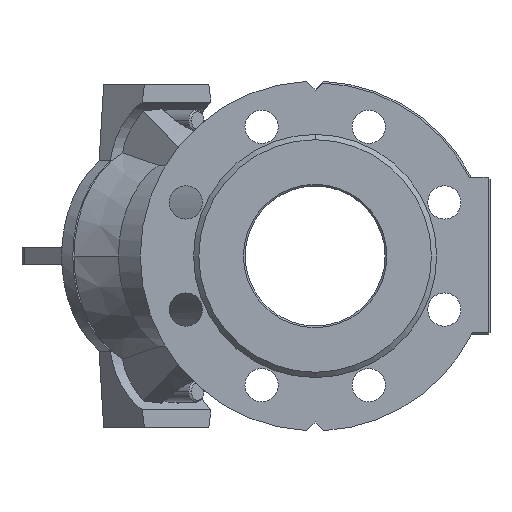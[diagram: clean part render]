
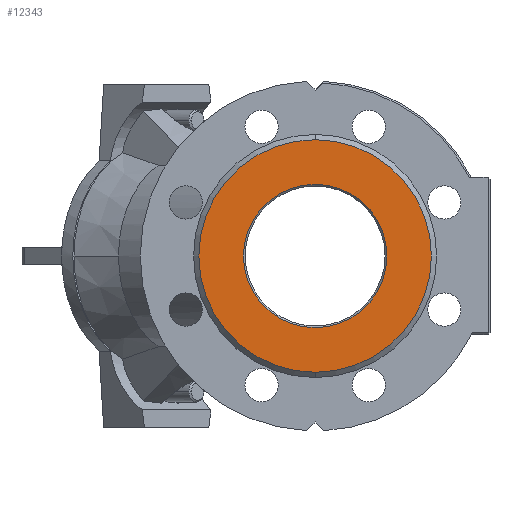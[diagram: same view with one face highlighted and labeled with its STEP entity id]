
A CAD part, left-side view. The second image highlights one B-rep face of the part: STEP entity #12343.
In plain terms, the highlighted planar face has unit normal (-1, 0, 0).
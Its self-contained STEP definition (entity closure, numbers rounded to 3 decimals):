
#7350 = DIRECTION ( 'NONE',  ( 0., 0., 1. ) ) ;
#7351 = DIRECTION ( 'NONE',  ( -1., 0., 0. ) ) ;
#7352 = CARTESIAN_POINT ( 'NONE',  ( -130., 0., 0. ) ) ;
#7353 = AXIS2_PLACEMENT_3D ( 'NONE', #7352, #7351, #7350 ) ;
#7354 = CIRCLE ( 'NONE', #7353, 66.5 ) ;
#8128 = CARTESIAN_POINT ( 'NONE',  ( -130., 0., 66.5 ) ) ;
#8361 = CARTESIAN_POINT ( 'NONE',  ( -130., 0., -66.5 ) ) ;
#10937 = EDGE_CURVE ( 'NONE', #11028, #11037, #7354, .T. ) ;
#11028 = VERTEX_POINT ( 'NONE', #8128 ) ;
#11037 = VERTEX_POINT ( 'NONE', #8361 ) ;
#12343 = ADVANCED_FACE ( 'NONE', ( #21867, #21866 ), #21865, .F. ) ;
#12344 = EDGE_LOOP ( 'NONE', ( #12345, #12346 ) ) ;
#12345 = ORIENTED_EDGE ( 'NONE', *, *, #12606, .T. ) ;
#12346 = ORIENTED_EDGE ( 'NONE', *, *, #12347, .T. ) ;
#12347 = EDGE_CURVE ( 'NONE', #12604, #12607, #21863, .T. ) ;
#12348 = EDGE_LOOP ( 'NONE', ( #12349, #12352 ) ) ;
#12349 = ORIENTED_EDGE ( 'NONE', *, *, #12350, .T. ) ;
#12350 = EDGE_CURVE ( 'NONE', #11037, #11028, #21855, .T. ) ;
#12352 = ORIENTED_EDGE ( 'NONE', *, *, #10937, .T. ) ;
#12604 = VERTEX_POINT ( 'NONE', #22894 ) ;
#12606 = EDGE_CURVE ( 'NONE', #12607, #12604, #22893, .T. ) ;
#12607 = VERTEX_POINT ( 'NONE', #22949 ) ;
#21851 = DIRECTION ( 'NONE',  ( 0., 0., 1. ) ) ;
#21852 = DIRECTION ( 'NONE',  ( -1., 0., 0. ) ) ;
#21853 = CARTESIAN_POINT ( 'NONE',  ( -130., 0., 0. ) ) ;
#21854 = AXIS2_PLACEMENT_3D ( 'NONE', #21853, #21852, #21851 ) ;
#21855 = CIRCLE ( 'NONE', #21854, 66.5 ) ;
#21856 = DIRECTION ( 'NONE',  ( 0., 0., -1. ) ) ;
#21857 = DIRECTION ( 'NONE',  ( 1., 0., 0. ) ) ;
#21858 = CARTESIAN_POINT ( 'NONE',  ( -130., 0., 0. ) ) ;
#21859 = AXIS2_PLACEMENT_3D ( 'NONE', #21858, #21857, #21856 ) ;
#21860 = DIRECTION ( 'NONE',  ( 0., 0., -1. ) ) ;
#21861 = DIRECTION ( 'NONE',  ( 1., 0., 0. ) ) ;
#21862 = CARTESIAN_POINT ( 'NONE',  ( -130., 0., 0. ) ) ;
#21863 = CIRCLE ( 'NONE', #21859, 41. ) ;
#21864 = AXIS2_PLACEMENT_3D ( 'NONE', #21862, #21861, #21860 ) ;
#21865 = PLANE ( 'NONE',  #21864 ) ;
#21866 = FACE_OUTER_BOUND ( 'NONE', #12348, .T. ) ;
#21867 = FACE_BOUND ( 'NONE', #12344, .T. ) ;
#22893 = CIRCLE ( 'NONE', #22953, 41. ) ;
#22894 = CARTESIAN_POINT ( 'NONE',  ( -130., 0., -41. ) ) ;
#22949 = CARTESIAN_POINT ( 'NONE',  ( -130., 0., 41. ) ) ;
#22950 = DIRECTION ( 'NONE',  ( 0., 0., -1. ) ) ;
#22951 = DIRECTION ( 'NONE',  ( 1., 0., 0. ) ) ;
#22952 = CARTESIAN_POINT ( 'NONE',  ( -130., 0., 0. ) ) ;
#22953 = AXIS2_PLACEMENT_3D ( 'NONE', #22952, #22951, #22950 ) ;
